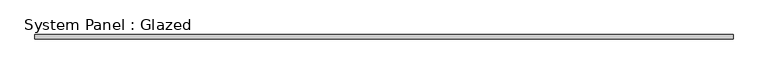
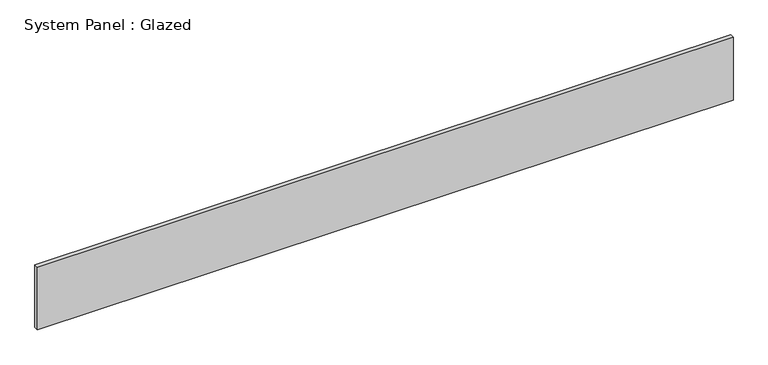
"""IFC4 building model written with IfcOpenShell, lengths in millimetres: plate geometry, System Panel : Glazed."""

from ifc_helpers import new_model, si_unit, origin, origin_with_axes, place, context, project, spatial, polyline, outline, extrude, source, transform, mapped, element, save


def system_panel_glazed_d9b165dc(model_context):
    return source(origin(), model_context, "Body", "SweptSolid", [
        extrude(outline(polyline([(1962.5, 24.5), (-1962.5, 24.5), (-1962.5, 49.5), (1962.5, 49.5), (1962.5, 24.5)])), origin_with_axes(), (0.0, 0.0, 1.0), 373.4924443),
    ])


if __name__ == "__main__":
    model = new_model("IFC4")
    model_context = context("Model", 3, world=origin())
    ifc_project = project(units=[si_unit("LENGTHUNIT", "METRE", prefix="MILLI")], contexts=[model_context])
    site = spatial("IfcSite", under=ifc_project)
    building = spatial("IfcBuilding", under=site)
    placement = place(None, origin())
    system_panel_glazed_shape = system_panel_glazed_d9b165dc(model_context)
    element("IfcPlate", 1, ObjectType="System Panel : Glazed", at=placement, inside=building, context=model_context, shape_type="MappedRepresentation", body=[
        mapped(system_panel_glazed_shape, transform((0.0, 0.0, 0.0), x_axis=(1.0, 0.0, 0.0), y_axis=(0.0, 1.0, 0.0), z_axis=(0.0, 0.0, 1.0))),
    ])
    save(model, "model.ifc")
